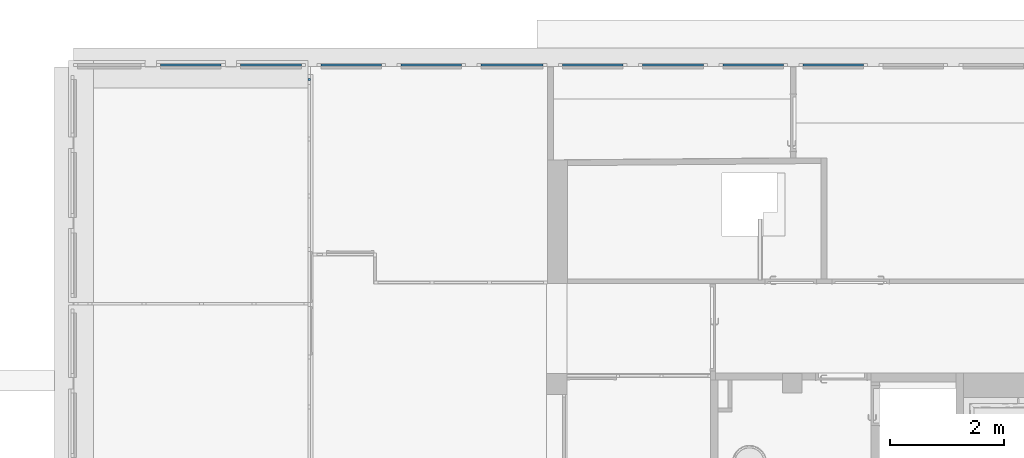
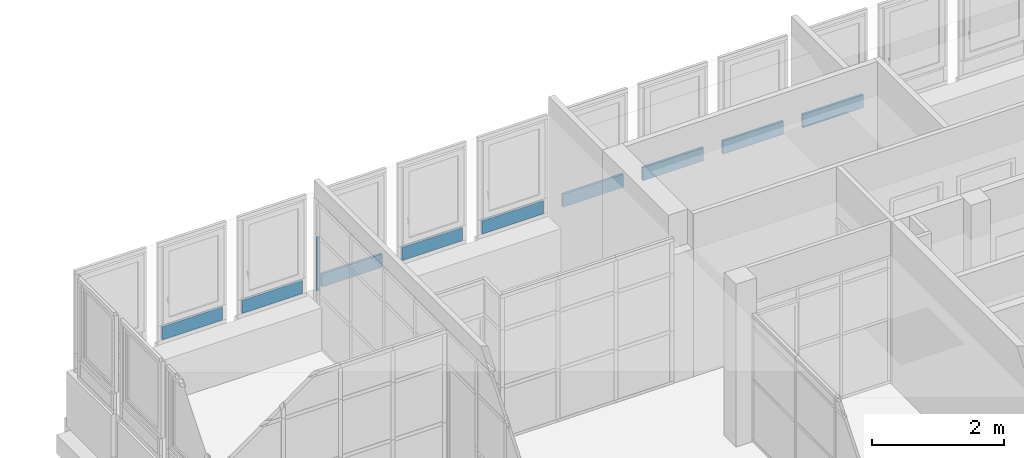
# One storey, part 33 of 97: 10 plates, 10 elements without a shape of their own.
"""IFC4 building model written with IfcOpenShell, lengths in metres."""

from ifc_helpers import new_model, entity, si_unit, converted_unit, derived_unit, direction, frame, origin, place, context, subcontext, project, spatial, indexed_curve, outline, extrude, shape, source, transform, mapped, material, layer, layer_set, type_object, type_shapes, element, aggregate, save


model = new_model("IFC4")

# Units and contexts
model_context = context("Model", 3, precision=1e-05, world=origin(), true_north=direction((6.12303176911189e-17, 1.0)))
body_context = subcontext(model_context, "Body", "Model", "MODEL_VIEW")
footprint_context = subcontext(model_context, "FootPrint", "Model", "MODEL_VIEW")
ifc_project = project(units=[si_unit("LENGTHUNIT", "METRE"), si_unit("AREAUNIT", "SQUARE_METRE"), si_unit("VOLUMEUNIT", "CUBIC_METRE"), converted_unit("PLANEANGLEUNIT", "DEGREE", entity("IfcRatioMeasure", 0.0174532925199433), si_unit("PLANEANGLEUNIT", "RADIAN"), dimensions=[0, 0, 0, 0, 0, 0, 0]), si_unit("MASSUNIT", "GRAM", prefix="KILO"), derived_unit("MASSDENSITYUNIT", [(si_unit("MASSUNIT", "GRAM", prefix="KILO"), 1), (si_unit("LENGTHUNIT", "METRE"), -3)]), derived_unit("MOMENTOFINERTIAUNIT", [(si_unit("LENGTHUNIT", "METRE"), 4)]), si_unit("TIMEUNIT", "SECOND"), si_unit("FREQUENCYUNIT", "HERTZ"), si_unit("THERMODYNAMICTEMPERATUREUNIT", "DEGREE_CELSIUS"), derived_unit("THERMALTRANSMITTANCEUNIT", [(si_unit("MASSUNIT", "GRAM", prefix="KILO"), 1), (si_unit("THERMODYNAMICTEMPERATUREUNIT", "KELVIN"), -1), (si_unit("TIMEUNIT", "SECOND"), -3)]), derived_unit("VOLUMETRICFLOWRATEUNIT", [(si_unit("LENGTHUNIT", "METRE"), 3), (si_unit("TIMEUNIT", "SECOND"), -1)]), si_unit("ELECTRICCURRENTUNIT", "AMPERE"), si_unit("ELECTRICVOLTAGEUNIT", "VOLT"), si_unit("POWERUNIT", "WATT"), si_unit("FORCEUNIT", "NEWTON", prefix="KILO"), si_unit("ILLUMINANCEUNIT", "LUX"), si_unit("LUMINOUSFLUXUNIT", "LUMEN"), si_unit("LUMINOUSINTENSITYUNIT", "CANDELA"), derived_unit("USERDEFINED", [(si_unit("MASSUNIT", "GRAM", prefix="KILO"), -1), (si_unit("LENGTHUNIT", "METRE"), -2), (si_unit("TIMEUNIT", "SECOND"), 3), (si_unit("LUMINOUSFLUXUNIT", "LUMEN"), 1)]), derived_unit("LINEARVELOCITYUNIT", [(si_unit("LENGTHUNIT", "METRE"), 1), (si_unit("TIMEUNIT", "SECOND"), -1)]), si_unit("PRESSUREUNIT", "PASCAL"), derived_unit("USERDEFINED", [(si_unit("LENGTHUNIT", "METRE"), -2), (si_unit("MASSUNIT", "GRAM", prefix="KILO"), 1), (si_unit("TIMEUNIT", "SECOND"), -2)]), derived_unit("LINEARFORCEUNIT", [(si_unit("MASSUNIT", "GRAM", prefix="KILO"), 1), (si_unit("LENGTHUNIT", "METRE"), 1), (si_unit("TIMEUNIT", "SECOND"), -2), (si_unit("LENGTHUNIT", "METRE"), -1)]), derived_unit("PLANARFORCEUNIT", [(si_unit("MASSUNIT", "GRAM", prefix="KILO"), 1), (si_unit("LENGTHUNIT", "METRE"), 1), (si_unit("TIMEUNIT", "SECOND"), -2), (si_unit("LENGTHUNIT", "METRE"), -2)])], contexts=[model_context])

# Site, building, storey
site_placement = place(None, origin())
site = spatial("IfcSite", under=ifc_project, at=site_placement, Name="Default", CompositionType="ELEMENT")
building_placement = place(site_placement, origin())
building = spatial("IfcBuilding", under=site, at=building_placement, Name="HOTEL CONSULAIRE BOULOGNE SUR MER", CompositionType="ELEMENT")
storey_placement = place(building_placement, frame((0.0, 0.0, 3.62152697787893)))
storey = spatial("IfcBuildingStorey", under=building, at=storey_placement, Name="Niveau 1", CompositionType="ELEMENT", Elevation=3.62152697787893)

# Curtain wall, plate
curtain_wall_type = type_object("IfcCurtainWallType", Name="Mur-rideau:Simple panneau", PredefinedType="NOTDEFINED")
curtain_wall_1_placement = place(storey_placement, frame((0.0, 0.0, -3.62152697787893)))
curtain_wall_1 = element("IfcCurtainWall", 1, at=curtain_wall_1_placement, inside=storey, type_object=curtain_wall_type, Name="Mur-rideau:Simple panneau", ObjectType="Mur-rideau:Simple panneau", PredefinedType="NOTDEFINED")
ifc_material = material(Name="Verre", Category="Verre")
ifc_layer = layer(ifc_material, 0.04, Name="Verre", Category="Verre")
ifc_layer_set = layer_set([ifc_layer], Name="Mur-rideau:Simple panneau")
plate_type_1 = type_object("IfcPlateType", Name="Panneau système:Vitré", PredefinedType="CURTAIN_PANEL", material=ifc_layer_set)
shared_shape_1 = source(origin(), body_context, "Body", "SweptSolid", [
    extrude(outline(indexed_curve([(-0.02, -0.530000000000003), (0.02, -0.530000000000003), (0.02, 0.530000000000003), (-0.02, 0.530000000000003), (-0.02, -0.530000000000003)], self_intersect=False)), frame((0.530000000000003, 0.02, 0.0), z_axis=(0.0, 0.0, 1.0), x_axis=(0.0, 1.0, 0.0)), (0.0, 0.0, 1.0), 0.243),
])
shared_shape_2 = source(frame((-0.530000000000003, 0.00500000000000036, 0.0)), footprint_context, "FootPrint", "Curve2D", [
    entity("IfcIndexedPolyCurve", entity("IfcCartesianPointList2D", [[0.691544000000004, 0.00347600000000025], [0.691544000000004, 0.0434760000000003], [-0.368456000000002, 0.0434760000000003], [-0.368456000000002, 0.00347600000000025], [0.691544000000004, 0.00347600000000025]]), None, False),
])
type_shapes(plate_type_1, [shared_shape_1, shared_shape_2])
plate_1_placement = place(curtain_wall_1_placement, frame((-12.2714199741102, -10.0696323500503, 4.48313951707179)))
plate_1 = element("IfcPlate", 2, at=plate_1_placement, type_object=plate_type_1, material=ifc_layer_set, Name="Panneau système:Vitré", ObjectType="Panneau système:Vitré", PredefinedType="CURTAIN_PANEL", shapes=[
    shape(body_context, "Body", "MappedRepresentation", [mapped(shared_shape_1, transform((0.0, 0.0, 0.0), scale=1.0))]),
    shape(body_context, "Body", "MappedRepresentation", [mapped(shared_shape_2, transform((0.0, 0.0, 0.0), scale=1.0))]),
])
aggregate(curtain_wall_1, [plate_1])

curtain_wall_2_placement = place(storey_placement, frame((0.0, 0.0, -3.62152697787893)))
curtain_wall_2 = element("IfcCurtainWall", 3, at=curtain_wall_2_placement, inside=storey, type_object=curtain_wall_type, Name="Mur-rideau:Simple panneau", ObjectType="Mur-rideau:Simple panneau", PredefinedType="NOTDEFINED")
plate_2_placement = place(curtain_wall_2_placement, frame((-10.8714199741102, -10.0696323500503, 4.48313951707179)))
plate_2 = element("IfcPlate", 4, at=plate_2_placement, type_object=plate_type_1, material=ifc_layer_set, Name="Panneau système:Vitré", ObjectType="Panneau système:Vitré", PredefinedType="CURTAIN_PANEL", shapes=[
    shape(body_context, "Body", "MappedRepresentation", [mapped(shared_shape_1, transform((0.0, 0.0, 0.0), scale=1.0))]),
    shape(body_context, "Body", "MappedRepresentation", [mapped(shared_shape_2, transform((0.0, 0.0, 0.0), scale=1.0))]),
])
aggregate(curtain_wall_2, [plate_2])

curtain_wall_3_placement = place(storey_placement, frame((0.0, 0.0, -3.62152697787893)))
curtain_wall_3 = element("IfcCurtainWall", 5, at=curtain_wall_3_placement, inside=storey, type_object=curtain_wall_type, Name="Mur-rideau:Simple panneau", ObjectType="Mur-rideau:Simple panneau", PredefinedType="NOTDEFINED")
plate_3_placement = place(curtain_wall_3_placement, frame((-9.47141997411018, -10.0696323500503, 4.48313951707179)))
plate_3 = element("IfcPlate", 6, at=plate_3_placement, type_object=plate_type_1, material=ifc_layer_set, Name="Panneau système:Vitré", ObjectType="Panneau système:Vitré", PredefinedType="CURTAIN_PANEL", shapes=[
    shape(body_context, "Body", "MappedRepresentation", [mapped(shared_shape_1, transform((0.0, 0.0, 0.0), scale=1.0))]),
    shape(body_context, "Body", "MappedRepresentation", [mapped(shared_shape_2, transform((0.0, 0.0, 0.0), scale=1.0))]),
])
aggregate(curtain_wall_3, [plate_3])

curtain_wall_4_placement = place(storey_placement, frame((0.0, 0.0, -3.62152697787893)))
curtain_wall_4 = element("IfcCurtainWall", 7, at=curtain_wall_4_placement, inside=storey, type_object=curtain_wall_type, Name="Mur-rideau:Simple panneau", ObjectType="Mur-rideau:Simple panneau", PredefinedType="NOTDEFINED")
plate_4_placement = place(curtain_wall_4_placement, frame((-8.07141997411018, -10.0696323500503, 4.48313951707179)))
plate_4 = element("IfcPlate", 8, at=plate_4_placement, type_object=plate_type_1, material=ifc_layer_set, Name="Panneau système:Vitré", ObjectType="Panneau système:Vitré", PredefinedType="CURTAIN_PANEL", shapes=[
    shape(body_context, "Body", "MappedRepresentation", [mapped(shared_shape_1, transform((0.0, 0.0, 0.0), scale=1.0))]),
    shape(body_context, "Body", "MappedRepresentation", [mapped(shared_shape_2, transform((0.0, 0.0, 0.0), scale=1.0))]),
])
aggregate(curtain_wall_4, [plate_4])

curtain_wall_5_placement = place(storey_placement, frame((0.0, 0.0, -3.62152697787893)))
curtain_wall_5 = element("IfcCurtainWall", 9, at=curtain_wall_5_placement, inside=storey, type_object=curtain_wall_type, Name="Mur-rideau:Simple panneau", ObjectType="Mur-rideau:Simple panneau", PredefinedType="NOTDEFINED")
plate_5_placement = place(curtain_wall_5_placement, frame((-5.24977317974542, -10.0696323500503, 4.48313951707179)))
plate_5 = element("IfcPlate", 10, at=plate_5_placement, type_object=plate_type_1, material=ifc_layer_set, Name="Panneau système:Vitré", ObjectType="Panneau système:Vitré", PredefinedType="CURTAIN_PANEL", shapes=[
    shape(body_context, "Body", "MappedRepresentation", [mapped(shared_shape_1, transform((0.0, 0.0, 0.0), scale=1.0))]),
    shape(body_context, "Body", "MappedRepresentation", [mapped(shared_shape_2, transform((0.0, 0.0, 0.0), scale=1.0))]),
])
aggregate(curtain_wall_5, [plate_5])

curtain_wall_6_placement = place(storey_placement, frame((0.0, 0.0, -3.62152697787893)))
curtain_wall_6 = element("IfcCurtainWall", 11, at=curtain_wall_6_placement, inside=storey, type_object=curtain_wall_type, Name="Mur-rideau:Simple panneau", ObjectType="Mur-rideau:Simple panneau", PredefinedType="NOTDEFINED")
plate_6_placement = place(curtain_wall_6_placement, frame((-3.84977317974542, -10.0696323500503, 4.48313951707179)))
plate_6 = element("IfcPlate", 12, at=plate_6_placement, type_object=plate_type_1, material=ifc_layer_set, Name="Panneau système:Vitré", ObjectType="Panneau système:Vitré", PredefinedType="CURTAIN_PANEL", shapes=[
    shape(body_context, "Body", "MappedRepresentation", [mapped(shared_shape_1, transform((0.0, 0.0, 0.0), scale=1.0))]),
    shape(body_context, "Body", "MappedRepresentation", [mapped(shared_shape_2, transform((0.0, 0.0, 0.0), scale=1.0))]),
])
aggregate(curtain_wall_6, [plate_6])

curtain_wall_7_placement = place(storey_placement, frame((0.0, 0.0, -3.62152697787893)))
curtain_wall_7 = element("IfcCurtainWall", 13, at=curtain_wall_7_placement, inside=storey, type_object=curtain_wall_type, Name="Mur-rideau:Simple panneau", ObjectType="Mur-rideau:Simple panneau", PredefinedType="NOTDEFINED")
plate_7_placement = place(curtain_wall_7_placement, frame((-2.44977317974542, -10.0696323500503, 4.48313951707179)))
plate_7 = element("IfcPlate", 14, at=plate_7_placement, type_object=plate_type_1, material=ifc_layer_set, Name="Panneau système:Vitré", ObjectType="Panneau système:Vitré", PredefinedType="CURTAIN_PANEL", shapes=[
    shape(body_context, "Body", "MappedRepresentation", [mapped(shared_shape_1, transform((0.0, 0.0, 0.0), scale=1.0))]),
    shape(body_context, "Body", "MappedRepresentation", [mapped(shared_shape_2, transform((0.0, 0.0, 0.0), scale=1.0))]),
])
aggregate(curtain_wall_7, [plate_7])

curtain_wall_8_placement = place(storey_placement, frame((0.0, 0.0, -3.62152697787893)))
curtain_wall_8 = element("IfcCurtainWall", 15, at=curtain_wall_8_placement, inside=storey, type_object=curtain_wall_type, Name="Mur-rideau:Simple panneau", ObjectType="Mur-rideau:Simple panneau", PredefinedType="NOTDEFINED")
plate_type_2 = type_object("IfcPlateType", Name="Panneau système:Vitré", PredefinedType="CURTAIN_PANEL", material=ifc_layer_set)
shared_shape_3 = source(origin(), body_context, "Body", "SweptSolid", [
    extrude(outline(indexed_curve([(-0.02, -0.540823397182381), (0.02, -0.540823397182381), (0.02, 0.540823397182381), (-0.02, 0.540823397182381), (-0.02, -0.540823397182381)], self_intersect=False)), frame((0.540823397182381, 0.02, 0.0), z_axis=(0.0, 0.0, 1.0), x_axis=(0.0, 1.0, 0.0)), (0.0, 0.0, 1.0), 0.243),
])
shared_shape_4 = source(frame((-0.54082339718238, 0.00500000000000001, 0.0)), footprint_context, "FootPrint", "Curve2D", [
    entity("IfcIndexedPolyCurve", entity("IfcCartesianPointList2D", [[0.70566636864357, 0.003476], [0.70566636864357, 0.043476], [-0.375980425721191, 0.043476], [-0.375980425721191, 0.003476], [0.70566636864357, 0.003476]]), None, False),
])
type_shapes(plate_type_2, [shared_shape_3, shared_shape_4])
plate_8_placement = place(curtain_wall_8_placement, frame((-6.67141997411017, -10.0696323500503, 4.48313951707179)))
plate_8 = element("IfcPlate", 16, at=plate_8_placement, type_object=plate_type_2, material=ifc_layer_set, Name="Panneau système:Vitré", ObjectType="Panneau système:Vitré", PredefinedType="CURTAIN_PANEL", shapes=[
    shape(body_context, "Body", "MappedRepresentation", [mapped(shared_shape_3, transform((0.0, 0.0, 0.0), scale=1.0))]),
    shape(body_context, "Body", "MappedRepresentation", [mapped(shared_shape_4, transform((0.0, 0.0, 0.0), scale=1.0))]),
])
aggregate(curtain_wall_8, [plate_8])

curtain_wall_9_placement = place(storey_placement, frame((0.0, 0.0, -3.62152697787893)))
curtain_wall_9 = element("IfcCurtainWall", 17, at=curtain_wall_9_placement, inside=storey, type_object=curtain_wall_type, Name="Mur-rideau:Simple panneau", ObjectType="Mur-rideau:Simple panneau", PredefinedType="NOTDEFINED")
plate_type_3 = type_object("IfcPlateType", Name="Panneau système:Vitré", PredefinedType="CURTAIN_PANEL", material=ifc_layer_set)
shared_shape_5 = source(origin(), body_context, "Body", "SweptSolid", [
    extrude(outline(indexed_curve([(-0.02, -0.528675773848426), (0.02, -0.528675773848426), (0.02, 0.528675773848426), (-0.02, 0.528675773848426), (-0.02, -0.528675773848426)], self_intersect=False)), frame((0.528675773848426, 0.02, 0.0), z_axis=(0.0, 0.0, 1.0), x_axis=(0.0, 1.0, 0.0)), (0.0, 0.0, 1.0), 0.243),
])
shared_shape_6 = source(frame((-0.528675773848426, 0.00500000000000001, 0.0)), footprint_context, "FootPrint", "Curve2D", [
    entity("IfcIndexedPolyCurve", entity("IfcCartesianPointList2D", [[0.689816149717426, 0.003476], [0.689816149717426, 0.043476], [-0.367535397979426, 0.043476], [-0.367535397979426, 0.003476], [0.689816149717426, 0.003476]]), None, False),
])
type_shapes(plate_type_3, [shared_shape_5, shared_shape_6])
plate_9_placement = place(curtain_wall_9_placement, frame((-1.04977317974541, -10.0696323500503, 4.48313951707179)))
plate_9 = element("IfcPlate", 18, at=plate_9_placement, type_object=plate_type_3, material=ifc_layer_set, Name="Panneau système:Vitré", ObjectType="Panneau système:Vitré", PredefinedType="CURTAIN_PANEL", shapes=[
    shape(body_context, "Body", "MappedRepresentation", [mapped(shared_shape_5, transform((0.0, 0.0, 0.0), scale=1.0))]),
    shape(body_context, "Body", "MappedRepresentation", [mapped(shared_shape_6, transform((0.0, 0.0, 0.0), scale=1.0))]),
])
aggregate(curtain_wall_9, [plate_9])

curtain_wall_10_placement = place(storey_placement, frame((0.0, 0.0, -3.62152697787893)))
curtain_wall_10 = element("IfcCurtainWall", 19, at=curtain_wall_10_placement, inside=storey, type_object=curtain_wall_type, Name="Mur-rideau:Simple panneau", ObjectType="Mur-rideau:Simple panneau", PredefinedType="NOTDEFINED")
plate_type_4 = type_object("IfcPlateType", Name="Panneau système:Vitré", PredefinedType="CURTAIN_PANEL", material=ifc_layer_set)
shared_shape_7 = source(origin(), body_context, "Body", "SweptSolid", [
    extrude(outline(indexed_curve([(-0.356333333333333, -0.0186540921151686), (-0.286333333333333, -0.0186540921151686), (0.642666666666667, -0.0186540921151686), (0.642666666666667, 0.0186540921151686), (-0.286333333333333, 0.0186540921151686), (-0.356333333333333, 0.0186540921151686), (-0.356333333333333, -0.0186540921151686)], self_intersect=False)), frame((0.0186540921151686, 0.0, 0.356333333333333), z_axis=(0.0, 1.0, 0.0), x_axis=(0.0, 0.0, 1.0)), (0.0, 0.0, 1.0), 0.04),
])
shared_shape_8 = source(frame((-0.0186540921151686, 0.0050000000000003, 0.0)), footprint_context, "FootPrint", "Curve2D", [
    entity("IfcIndexedPolyCurve", entity("IfcCartesianPointList2D", [[-0.0129683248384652, 0.00347600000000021], [-0.0129683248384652, 0.00347600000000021], [-0.0129683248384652, 0.00347600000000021], [0.024339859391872, 0.00347600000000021], [0.024339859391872, 0.00347600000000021], [0.024339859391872, 0.00347600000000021], [-0.0129683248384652, 0.00347600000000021]]), None, False),
])
type_shapes(plate_type_4, [shared_shape_7, shared_shape_8])
plate_10_placement = place(curtain_wall_10_placement, frame((-9.65462464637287, -10.3226323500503, 4.63348743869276), z_axis=(0.0, 0.0, 1.0), x_axis=(0.0, 1.0, 0.0)))
plate_10 = element("IfcPlate", 20, at=plate_10_placement, type_object=plate_type_4, material=ifc_layer_set, Name="Panneau système:Vitré", ObjectType="Panneau système:Vitré", PredefinedType="CURTAIN_PANEL", shapes=[
    shape(body_context, "Body", "MappedRepresentation", [mapped(shared_shape_7, transform((0.0, 0.0, 0.0), scale=1.0))]),
    shape(body_context, "Body", "MappedRepresentation", [mapped(shared_shape_8, transform((0.0, 0.0, 0.0), scale=1.0))]),
])
aggregate(curtain_wall_10, [plate_10])

save(model, "model.ifc")
